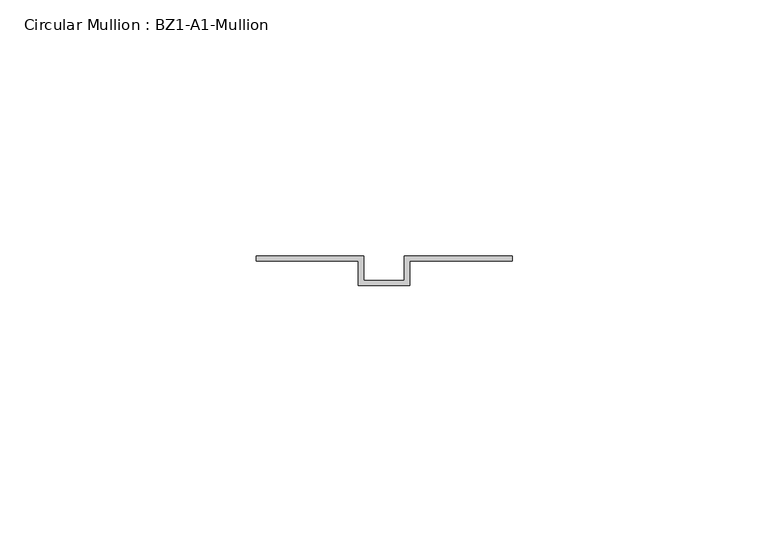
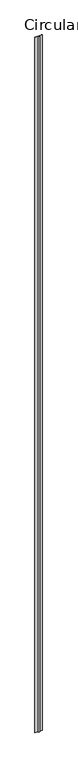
"""IFC4 building model written with IfcOpenShell, lengths in millimetres: member geometry, Circular Mullion : BZ1-A1-Mullion."""

from ifc_helpers import new_model, si_unit, frame, origin, place, context, project, spatial, polyline, outline, extrude, source, transform, mapped, element, save


def circular_mullion_bz1_a1_mullion_cedae3f4(model_context):
    return source(origin(), model_context, "Body", "SweptSolid", [
        extrude(outline(polyline([(-25.0, 11.0), (-4.0, 11.0), (-4.0, 6.2), (4.0, 6.2), (4.0, 11.0), (25.0, 11.0), (25.0, 10.0), (5.0, 10.0), (5.0, 5.2), (-5.0, 5.2), (-5.0, 10.0), (-25.0, 10.0), (-25.0, 11.0)])), frame((0.0, 0.0, -4899.563298), z_axis=(0.0, 0.0, 1.0), x_axis=(1.0, 0.0, 0.0)), (0.0, 0.0, 1.0), 4899.563298),
    ])


if __name__ == "__main__":
    model = new_model("IFC4")
    model_context = context("Model", 3, world=origin())
    ifc_project = project(units=[si_unit("LENGTHUNIT", "METRE", prefix="MILLI")], contexts=[model_context])
    site = spatial("IfcSite", under=ifc_project)
    building = spatial("IfcBuilding", under=site)
    placement = place(None, origin())
    circular_mullion_bz1_a1_mullion_shape = circular_mullion_bz1_a1_mullion_cedae3f4(model_context)
    element("IfcMember", 1, ObjectType="Circular Mullion : BZ1-A1-Mullion", at=placement, inside=building, context=model_context, shape_type="MappedRepresentation", body=[
        mapped(circular_mullion_bz1_a1_mullion_shape, transform((0.0, 0.0, 0.0), x_axis=(1.0, 0.0, 0.0), y_axis=(0.0, 1.0, 0.0), z_axis=(0.0, 0.0, 1.0))),
    ])
    save(model, "model.ifc")
